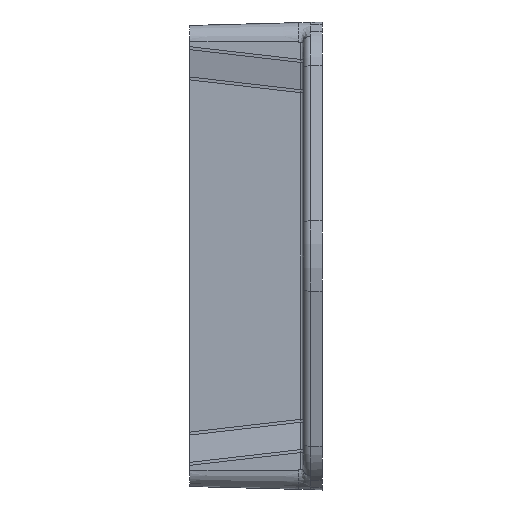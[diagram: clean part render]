
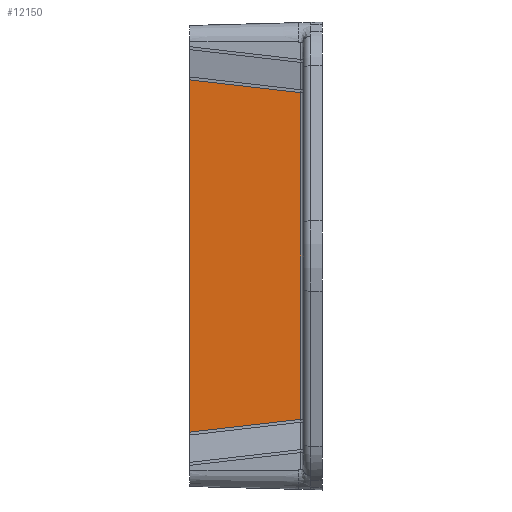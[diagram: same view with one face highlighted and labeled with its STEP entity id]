
A CAD part, left-side view. The second image highlights one B-rep face of the part: STEP entity #12150.
In plain terms, the highlighted planar face has unit normal (-1, 0.026, 0).
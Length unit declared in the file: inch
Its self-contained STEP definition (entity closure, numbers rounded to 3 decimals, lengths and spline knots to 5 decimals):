
#27 = FACE_OUTER_BOUND ( 'NONE', #7456, .T. ) ;
#287 = CARTESIAN_POINT ( 'NONE',  ( -1.54461, -0.74888, -1.07888 ) ) ;
#305 = DIRECTION ( 'NONE',  ( -0.026, -0.993, 0.114 ) ) ;
#403 = VERTEX_POINT ( 'NONE', #506 ) ;
#455 = CARTESIAN_POINT ( 'NONE',  ( -1.525, 0., 1.16517 ) ) ;
#487 = CARTESIAN_POINT ( 'NONE',  ( -1.54424, -0.73478, -1.0805 ) ) ;
#495 = VERTEX_POINT ( 'NONE', #513 ) ;
#506 = CARTESIAN_POINT ( 'NONE',  ( -1.525, 0., -1.16517 ) ) ;
#513 = CARTESIAN_POINT ( 'NONE',  ( -1.54424, -0.73478, 1.0805 ) ) ;
#699 = VERTEX_POINT ( 'NONE', #487 ) ;
#707 = VERTEX_POINT ( 'NONE', #455 ) ;
#1147 = LINE ( 'NONE', #8327, #1420 ) ;
#1231 = LINE ( 'NONE', #8341, #1232 ) ;
#1232 = VECTOR ( 'NONE', #8340, 39.37008 ) ;
#1360 = VECTOR ( 'NONE', #8521, 39.37008 ) ;
#1371 = LINE ( 'NONE', #8531, #1360 ) ;
#1420 = VECTOR ( 'NONE', #8321, 39.37008 ) ;
#2344 = DIRECTION ( 'NONE',  ( -1., 0.026, 0. ) ) ;
#2345 = PLANE ( 'NONE',  #11914 ) ;
#2379 = DIRECTION ( 'NONE',  ( -0.026, -1., 0. ) ) ;
#2382 = CARTESIAN_POINT ( 'NONE',  ( -1.525, 0., -1.175 ) ) ;
#4729 = EDGE_CURVE ( 'NONE', #403, #699, #6652, .T. ) ;
#4837 = EDGE_CURVE ( 'NONE', #495, #707, #1371, .T. ) ;
#4893 = EDGE_CURVE ( 'NONE', #699, #495, #1231, .T. ) ;
#4900 = EDGE_CURVE ( 'NONE', #403, #707, #1147, .T. ) ;
#6645 = VECTOR ( 'NONE', #305, 39.37008 ) ;
#6652 = LINE ( 'NONE', #287, #6645 ) ;
#7228 = ORIENTED_EDGE ( 'NONE', *, *, #4729, .T. ) ;
#7229 = ORIENTED_EDGE ( 'NONE', *, *, #4893, .T. ) ;
#7230 = ORIENTED_EDGE ( 'NONE', *, *, #4837, .T. ) ;
#7231 = ORIENTED_EDGE ( 'NONE', *, *, #4900, .F. ) ;
#7456 = EDGE_LOOP ( 'NONE', ( #7228, #7229, #7230, #7231 ) ) ;
#8321 = DIRECTION ( 'NONE',  ( 0., 0., 1. ) ) ;
#8327 = CARTESIAN_POINT ( 'NONE',  ( -1.525, 0., -1.175 ) ) ;
#8340 = DIRECTION ( 'NONE',  ( 0., 0., 1. ) ) ;
#8341 = CARTESIAN_POINT ( 'NONE',  ( -1.54424, -0.73478, -1.175 ) ) ;
#8521 = DIRECTION ( 'NONE',  ( 0.026, 0.993, 0.114 ) ) ;
#8531 = CARTESIAN_POINT ( 'NONE',  ( -1.52497, 0.00112, 1.1653 ) ) ;
#11914 = AXIS2_PLACEMENT_3D ( 'NONE', #2382, #2344, #2379 ) ;
#12150 = ADVANCED_FACE ( 'NONE', ( #27 ), #2345, .T. ) ;
